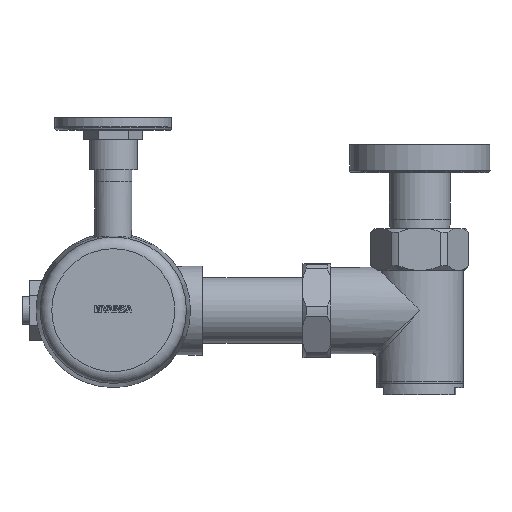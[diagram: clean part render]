
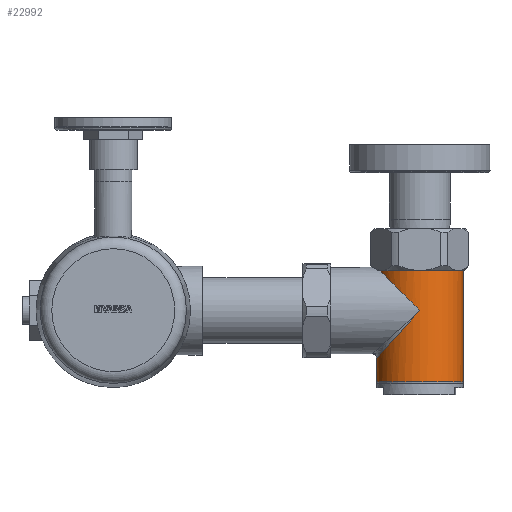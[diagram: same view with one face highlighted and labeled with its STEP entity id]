
A CAD part, top view. The second image highlights one B-rep face of the part: STEP entity #22992.
In plain terms, the highlighted cylindrical face has radius 18.5 mm (diameter 37 mm), a full revolution.
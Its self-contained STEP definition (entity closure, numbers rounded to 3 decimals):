
#12=ELLIPSE('',#25878,27.539,18.5);
#13=ELLIPSE('',#25879,27.539,18.5);
#15=ELLIPSE('',#25885,26.163,18.5);
#741=CYLINDRICAL_SURFACE('',#25881,18.5);
#2499=LINE('',#39162,#4546);
#4546=VECTOR('',#32071,18.5);
#6795=FACE_OUTER_BOUND('',#8106,.T.);
#8106=EDGE_LOOP('',(#20726,#20727,#20728,#20729,#20730,#20731,#20732,#20733,
#20734));
#9379=CIRCLE('',#25882,18.5);
#9380=CIRCLE('',#25883,18.5);
#9381=CIRCLE('',#25884,18.5);
#9382=CIRCLE('',#25886,18.5);
#11437=VERTEX_POINT('',#39086);
#11438=VERTEX_POINT('',#39087);
#11439=VERTEX_POINT('',#39125);
#11444=VERTEX_POINT('',#39157);
#11445=VERTEX_POINT('',#39158);
#11446=VERTEX_POINT('',#39161);
#11447=VERTEX_POINT('',#39163);
#14614=EDGE_CURVE('',#11438,#11437,#12,.T.);
#14616=EDGE_CURVE('',#11439,#11438,#13,.T.);
#14621=EDGE_CURVE('',#11444,#11445,#9379,.T.);
#14622=EDGE_CURVE('',#11445,#11444,#9380,.T.);
#14623=EDGE_CURVE('',#11445,#11446,#2499,.T.);
#14624=EDGE_CURVE('',#11446,#11447,#9381,.T.);
#14625=EDGE_CURVE('',#11447,#11437,#15,.T.);
#14626=EDGE_CURVE('',#11439,#11446,#9382,.T.);
#20726=ORIENTED_EDGE('',*,*,#14621,.F.);
#20727=ORIENTED_EDGE('',*,*,#14622,.F.);
#20728=ORIENTED_EDGE('',*,*,#14623,.T.);
#20729=ORIENTED_EDGE('',*,*,#14624,.T.);
#20730=ORIENTED_EDGE('',*,*,#14625,.T.);
#20731=ORIENTED_EDGE('',*,*,#14614,.F.);
#20732=ORIENTED_EDGE('',*,*,#14616,.F.);
#20733=ORIENTED_EDGE('',*,*,#14626,.T.);
#20734=ORIENTED_EDGE('',*,*,#14623,.F.);
#22992=ADVANCED_FACE('',(#6795),#741,.T.);
#25878=AXIS2_PLACEMENT_3D('',#39089,#32059,#32060);
#25879=AXIS2_PLACEMENT_3D('',#39133,#32061,#32062);
#25881=AXIS2_PLACEMENT_3D('',#39156,#32065,#32066);
#25882=AXIS2_PLACEMENT_3D('',#39159,#32067,#32068);
#25883=AXIS2_PLACEMENT_3D('',#39160,#32069,#32070);
#25884=AXIS2_PLACEMENT_3D('',#39164,#32072,#32073);
#25885=AXIS2_PLACEMENT_3D('',#39165,#32074,#32075);
#25886=AXIS2_PLACEMENT_3D('',#39166,#32076,#32077);
#32059=DIRECTION('center_axis',(0.741,0.,-0.672));
#32060=DIRECTION('ref_axis',(0.672,0.,0.741));
#32061=DIRECTION('center_axis',(0.741,0.,0.672));
#32062=DIRECTION('ref_axis',(0.672,0.,-0.741));
#32065=DIRECTION('center_axis',(0.,0.,1.));
#32066=DIRECTION('ref_axis',(1.,0.,0.));
#32067=DIRECTION('center_axis',(0.,0.,1.));
#32068=DIRECTION('ref_axis',(-1.,0.,0.));
#32069=DIRECTION('center_axis',(0.,0.,1.));
#32070=DIRECTION('ref_axis',(-1.,0.,0.));
#32071=DIRECTION('',(0.,0.,-1.));
#32072=DIRECTION('center_axis',(0.,0.,1.));
#32073=DIRECTION('ref_axis',(1.,0.,0.));
#32074=DIRECTION('center_axis',(-0.707,0.,-0.707));
#32075=DIRECTION('ref_axis',(0.707,0.,-0.707));
#32076=DIRECTION('center_axis',(0.,0.,1.));
#32077=DIRECTION('ref_axis',(1.,0.,0.));
#39086=CARTESIAN_POINT('',(0.,-18.5,2.));
#39087=CARTESIAN_POINT('',(0.,18.5,2.));
#39089=CARTESIAN_POINT('Origin',(0.,0.,2.));
#39125=CARTESIAN_POINT('',(15.417,10.226,-15.));
#39133=CARTESIAN_POINT('Origin',(0.,0.,2.));
#39156=CARTESIAN_POINT('Origin',(0.,0.,0.));
#39157=CARTESIAN_POINT('',(18.5,0.,32.5));
#39158=CARTESIAN_POINT('',(-18.5,0.,32.5));
#39159=CARTESIAN_POINT('Origin',(0.,0.,32.5));
#39160=CARTESIAN_POINT('Origin',(0.,0.,32.5));
#39161=CARTESIAN_POINT('',(-18.5,0.,-15.));
#39162=CARTESIAN_POINT('',(-18.5,0.,0.));
#39163=CARTESIAN_POINT('',(17.,-7.297,-15.));
#39164=CARTESIAN_POINT('Origin',(0.,0.,-15.));
#39165=CARTESIAN_POINT('Origin',(0.,0.,2.));
#39166=CARTESIAN_POINT('Origin',(0.,0.,-15.));
